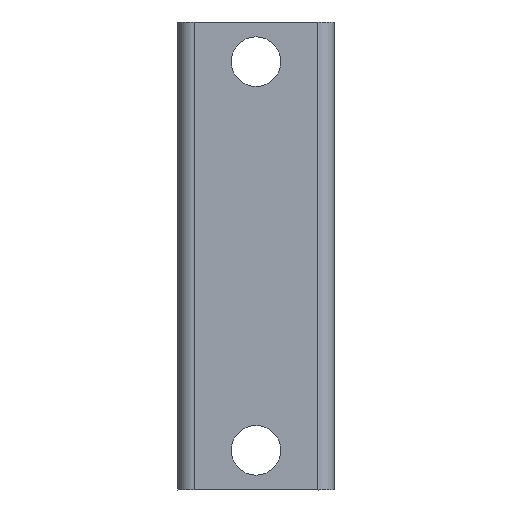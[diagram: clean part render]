
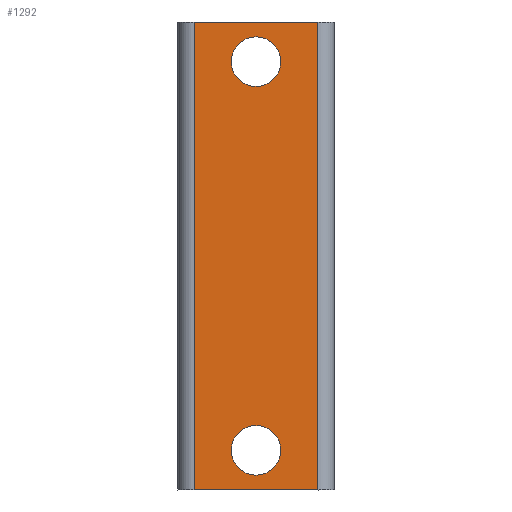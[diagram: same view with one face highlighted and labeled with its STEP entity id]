
A CAD part, front view. The second image highlights one B-rep face of the part: STEP entity #1292.
In plain terms, the highlighted planar face has unit normal (0, -1, 0).
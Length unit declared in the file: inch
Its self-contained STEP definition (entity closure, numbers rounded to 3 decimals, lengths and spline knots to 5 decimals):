
#17 = DIRECTION ( 'NONE',  ( 1., 0., 0. ) ) ;
#34 = CARTESIAN_POINT ( 'NONE',  ( 0., -0.06, 0.735 ) ) ;
#47 = EDGE_CURVE ( 'NONE', #1159, #220, #364, .T. ) ;
#52 = ORIENTED_EDGE ( 'NONE', *, *, #332, .F. ) ;
#96 = VECTOR ( 'NONE', #583, 39.37008 ) ;
#114 = DIRECTION ( 'NONE',  ( 0., 1., 0. ) ) ;
#140 = DIRECTION ( 'NONE',  ( 0., 1., 0. ) ) ;
#160 = DIRECTION ( 'NONE',  ( 0., 0., 1. ) ) ;
#203 = EDGE_LOOP ( 'NONE', ( #473, #594 ) ) ;
#210 = EDGE_CURVE ( 'NONE', #1217, #655, #1093, .T. ) ;
#220 = VERTEX_POINT ( 'NONE', #1070 ) ;
#228 = DIRECTION ( 'NONE',  ( 1., 0., 0. ) ) ;
#246 = DIRECTION ( 'NONE',  ( 0., 1., 0. ) ) ;
#250 = ORIENTED_EDGE ( 'NONE', *, *, #482, .T. ) ;
#253 = DIRECTION ( 'NONE',  ( 0., 0., 1. ) ) ;
#263 = ORIENTED_EDGE ( 'NONE', *, *, #407, .F. ) ;
#301 = LINE ( 'NONE', #1306, #587 ) ;
#330 = FACE_OUTER_BOUND ( 'NONE', #626, .T. ) ;
#332 = EDGE_CURVE ( 'NONE', #969, #455, #416, .T. ) ;
#361 = AXIS2_PLACEMENT_3D ( 'NONE', #34, #140, #253 ) ;
#364 = CIRCLE ( 'NONE', #874, 0.09375 ) ;
#367 = FACE_BOUND ( 'NONE', #203, .T. ) ;
#378 = EDGE_CURVE ( 'NONE', #909, #455, #802, .T. ) ;
#407 = EDGE_CURVE ( 'NONE', #427, #969, #301, .T. ) ;
#416 = LINE ( 'NONE', #1073, #868 ) ;
#418 = AXIS2_PLACEMENT_3D ( 'NONE', #773, #246, #673 ) ;
#427 = VERTEX_POINT ( 'NONE', #1014 ) ;
#437 = DIRECTION ( 'NONE',  ( 0., 0., -1. ) ) ;
#446 = CARTESIAN_POINT ( 'NONE',  ( -0.235, -0.06, -0.885 ) ) ;
#455 = VERTEX_POINT ( 'NONE', #889 ) ;
#461 = DIRECTION ( 'NONE',  ( 0., 1., 0. ) ) ;
#473 = ORIENTED_EDGE ( 'NONE', *, *, #967, .T. ) ;
#482 = EDGE_CURVE ( 'NONE', #427, #909, #671, .T. ) ;
#574 = CARTESIAN_POINT ( 'NONE',  ( 0.234, -0.06, 0.885 ) ) ;
#583 = DIRECTION ( 'NONE',  ( 0., 0., -1. ) ) ;
#587 = VECTOR ( 'NONE', #228, 39.37008 ) ;
#594 = ORIENTED_EDGE ( 'NONE', *, *, #47, .T. ) ;
#610 = CARTESIAN_POINT ( 'NONE',  ( 0., -0.06, 0.64125 ) ) ;
#621 = EDGE_CURVE ( 'NONE', #655, #1217, #906, .T. ) ;
#626 = EDGE_LOOP ( 'NONE', ( #1151, #52, #263, #250 ) ) ;
#628 = FACE_BOUND ( 'NONE', #846, .T. ) ;
#655 = VERTEX_POINT ( 'NONE', #882 ) ;
#671 = LINE ( 'NONE', #691, #96 ) ;
#673 = DIRECTION ( 'NONE',  ( 0., 0., 1. ) ) ;
#691 = CARTESIAN_POINT ( 'NONE',  ( -0.234, -0.06, 0.885 ) ) ;
#773 = CARTESIAN_POINT ( 'NONE',  ( 0., -0.06, -0.735 ) ) ;
#779 = CARTESIAN_POINT ( 'NONE',  ( -0.234, -0.06, -0.885 ) ) ;
#802 = LINE ( 'NONE', #446, #880 ) ;
#809 = CARTESIAN_POINT ( 'NONE',  ( 0., -0.06, 0.735 ) ) ;
#846 = EDGE_LOOP ( 'NONE', ( #864, #879 ) ) ;
#864 = ORIENTED_EDGE ( 'NONE', *, *, #210, .T. ) ;
#868 = VECTOR ( 'NONE', #437, 39.37008 ) ;
#874 = AXIS2_PLACEMENT_3D ( 'NONE', #809, #1347, #160 ) ;
#879 = ORIENTED_EDGE ( 'NONE', *, *, #621, .T. ) ;
#880 = VECTOR ( 'NONE', #17, 39.37008 ) ;
#882 = CARTESIAN_POINT ( 'NONE',  ( 0., -0.06, -0.82875 ) ) ;
#885 = AXIS2_PLACEMENT_3D ( 'NONE', #1138, #461, #1033 ) ;
#889 = CARTESIAN_POINT ( 'NONE',  ( 0.234, -0.06, -0.885 ) ) ;
#906 = CIRCLE ( 'NONE', #418, 0.09375 ) ;
#909 = VERTEX_POINT ( 'NONE', #779 ) ;
#946 = AXIS2_PLACEMENT_3D ( 'NONE', #1172, #114, #1283 ) ;
#967 = EDGE_CURVE ( 'NONE', #220, #1159, #1233, .T. ) ;
#969 = VERTEX_POINT ( 'NONE', #574 ) ;
#1014 = CARTESIAN_POINT ( 'NONE',  ( -0.234, -0.06, 0.885 ) ) ;
#1033 = DIRECTION ( 'NONE',  ( -1., 0., 0. ) ) ;
#1040 = CARTESIAN_POINT ( 'NONE',  ( 0., -0.06, -0.64125 ) ) ;
#1070 = CARTESIAN_POINT ( 'NONE',  ( 0., -0.06, 0.82875 ) ) ;
#1073 = CARTESIAN_POINT ( 'NONE',  ( 0.234, -0.06, 0.885 ) ) ;
#1093 = CIRCLE ( 'NONE', #946, 0.09375 ) ;
#1138 = CARTESIAN_POINT ( 'NONE',  ( -0.235, -0.06, 0.885 ) ) ;
#1151 = ORIENTED_EDGE ( 'NONE', *, *, #378, .T. ) ;
#1159 = VERTEX_POINT ( 'NONE', #610 ) ;
#1172 = CARTESIAN_POINT ( 'NONE',  ( 0., -0.06, -0.735 ) ) ;
#1213 = PLANE ( 'NONE',  #885 ) ;
#1217 = VERTEX_POINT ( 'NONE', #1040 ) ;
#1233 = CIRCLE ( 'NONE', #361, 0.09375 ) ;
#1283 = DIRECTION ( 'NONE',  ( 0., 0., 1. ) ) ;
#1292 = ADVANCED_FACE ( 'NONE', ( #367, #628, #330 ), #1213, .F. ) ;
#1306 = CARTESIAN_POINT ( 'NONE',  ( -0.235, -0.06, 0.885 ) ) ;
#1347 = DIRECTION ( 'NONE',  ( 0., 1., 0. ) ) ;
